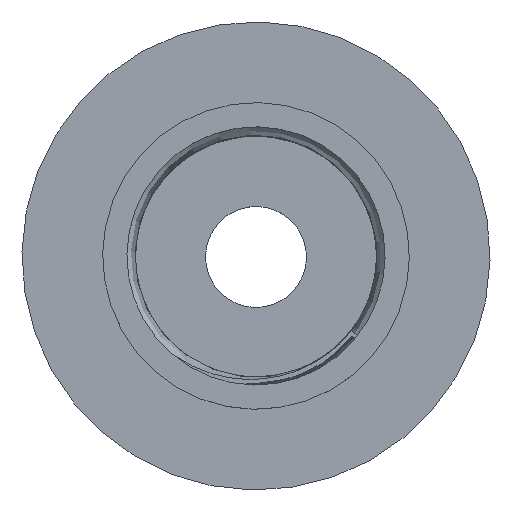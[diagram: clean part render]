
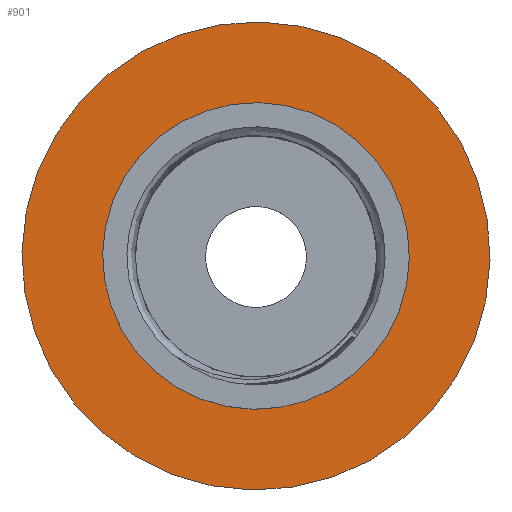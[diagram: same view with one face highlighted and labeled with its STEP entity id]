
A CAD part, top view. The second image highlights one B-rep face of the part: STEP entity #901.
In plain terms, the highlighted planar face has unit normal (0, 0, 1).
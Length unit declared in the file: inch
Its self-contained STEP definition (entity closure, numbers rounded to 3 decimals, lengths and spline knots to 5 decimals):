
#164=PLANE('',#965);
#188=FACE_BOUND('',#321,.T.);
#244=FACE_OUTER_BOUND('',#320,.T.);
#320=EDGE_LOOP('',(#764));
#321=EDGE_LOOP('',(#765));
#360=CIRCLE('',#964,1.8125);
#361=CIRCLE('',#966,1.1875);
#442=VERTEX_POINT('',#11215);
#443=VERTEX_POINT('',#11218);
#552=EDGE_CURVE('',#442,#442,#360,.T.);
#553=EDGE_CURVE('',#443,#443,#361,.T.);
#764=ORIENTED_EDGE('',*,*,#552,.T.);
#765=ORIENTED_EDGE('',*,*,#553,.F.);
#901=ADVANCED_FACE('',(#244,#188),#164,.T.);
#964=AXIS2_PLACEMENT_3D('',#11216,#1112,#1113);
#965=AXIS2_PLACEMENT_3D('',#11217,#1114,#1115);
#966=AXIS2_PLACEMENT_3D('',#11219,#1116,#1117);
#1112=DIRECTION('center_axis',(0.,0.,
1.));
#1113=DIRECTION('ref_axis',(0.856,-0.516,0.));
#1114=DIRECTION('center_axis',(0.,0.,
1.));
#1115=DIRECTION('ref_axis',(-0.516,-0.856,0.));
#1116=DIRECTION('center_axis',(0.,0.,
1.));
#1117=DIRECTION('ref_axis',(0.856,-0.516,0.));
#11215=CARTESIAN_POINT('',(1.55225,-0.93578,0.));
#11216=CARTESIAN_POINT('Origin',(0.,0.,
0.));
#11217=CARTESIAN_POINT('Origin',(1.28462,-0.77444,0.));
#11218=CARTESIAN_POINT('',(1.01699,-0.6131,0.));
#11219=CARTESIAN_POINT('Origin',(0.,0.,
0.));
